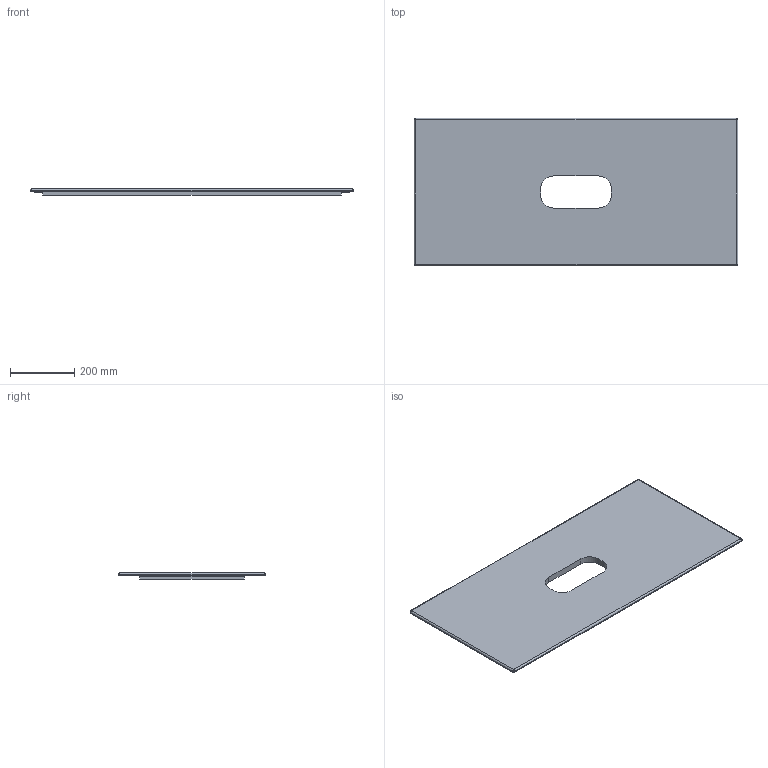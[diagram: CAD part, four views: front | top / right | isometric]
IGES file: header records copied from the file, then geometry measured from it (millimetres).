
Start section: START RECORD GO HERE.
Global section: file name: 3D ART 2052.igs; native system: DASSAULT SYSTEMES CATIA V5 R19 - www.3ds.com; preprocessor: CATIA Version 5 Release 19 SP 5 ; author: Luca; organization: DESKTOP-V7SON24; date: 20191030.174110; units: millimetre
Bounding box: 1010 x 460 x 20 mm (x, y, z)
Surface area: 947103.9 mm2 (no closed solid volume)
Topology: 0 solids, 0 shells, 39 faces, 196 edges, 192 vertices
Faces by surface type: plane 23, revolution 16
